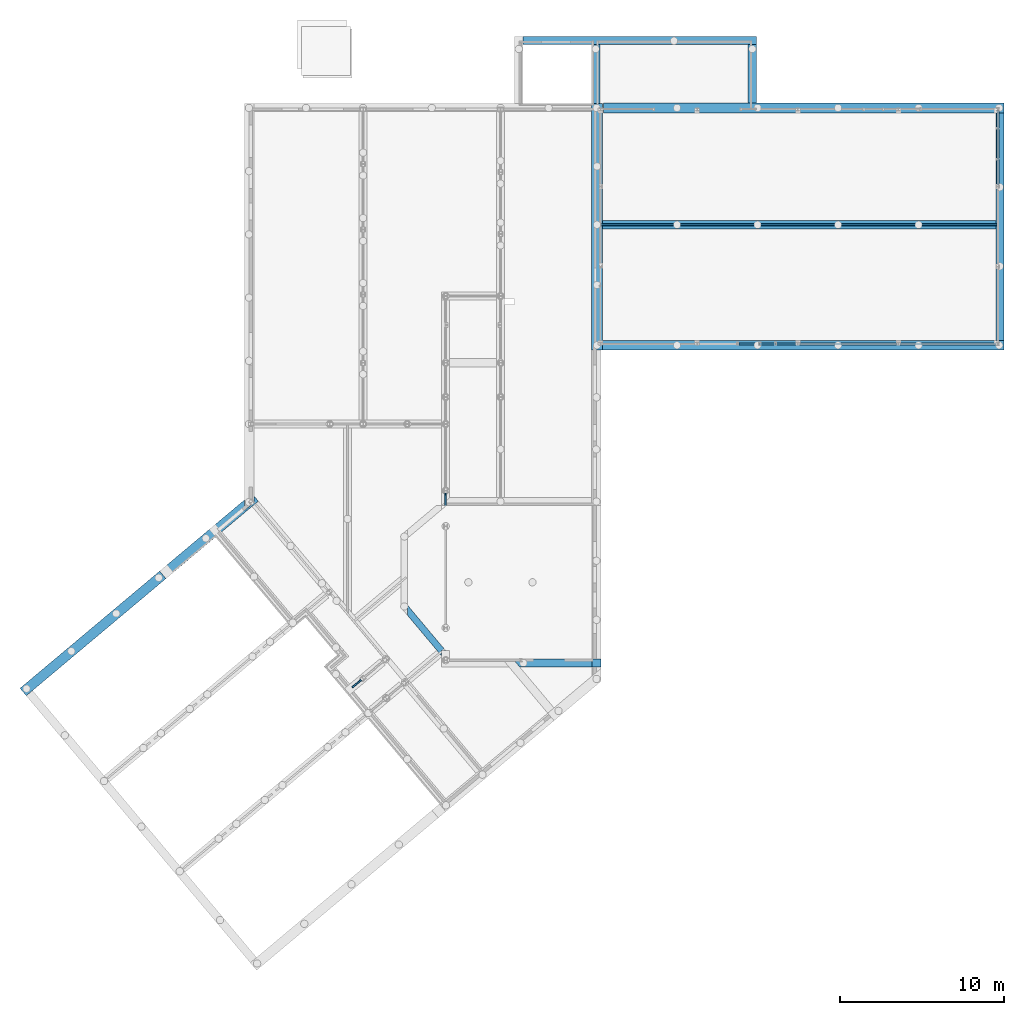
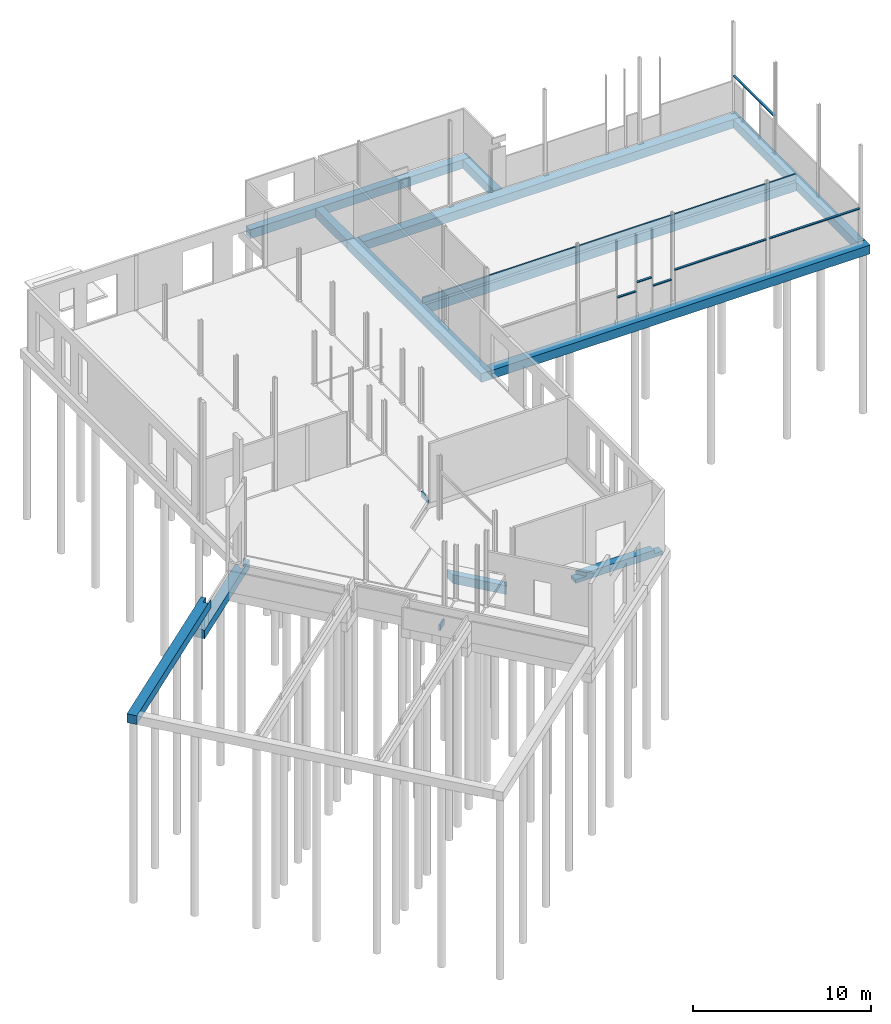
# One storey, part 13 of 18: 21 beams.
"""IFC2X3 building model written with IfcOpenShell, lengths in millimetres."""

from ifc_helpers import new_model, entity, si_unit, converted_unit, derived_unit, direction, frame, frame_2d, origin, place, context, subcontext, project, spatial, polyline, circle_curve, parameter, trimmed, segment, composite_curve, rectangle, outline, extrude, clip, halfspace, faceted_brep, material, type_object, element, save


model = new_model("IFC2X3")

# Units and contexts
model_context = context("Model", 3, precision=0.01, world=origin(), true_north=direction((6.12303176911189e-17, 1.0)))
body_context = subcontext(model_context, "Body", "Model", "MODEL_VIEW")
ifc_project = project(units=[si_unit("LENGTHUNIT", "METRE", prefix="MILLI"), si_unit("AREAUNIT", "SQUARE_METRE"), si_unit("VOLUMEUNIT", "CUBIC_METRE"), converted_unit("PLANEANGLEUNIT", "DEGREE", entity("IfcRatioMeasure", 0.0174532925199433), si_unit("PLANEANGLEUNIT", "RADIAN"), dimensions=[0, 0, 0, 0, 0, 0, 0]), si_unit("MASSUNIT", "GRAM", prefix="KILO"), derived_unit("MASSDENSITYUNIT", [(si_unit("MASSUNIT", "GRAM", prefix="KILO"), 1), (si_unit("LENGTHUNIT", "METRE"), -3)]), derived_unit("MOMENTOFINERTIAUNIT", [(si_unit("LENGTHUNIT", "METRE"), 4)]), si_unit("TIMEUNIT", "SECOND"), si_unit("FREQUENCYUNIT", "HERTZ"), si_unit("THERMODYNAMICTEMPERATUREUNIT", "DEGREE_CELSIUS"), derived_unit("THERMALTRANSMITTANCEUNIT", [(si_unit("MASSUNIT", "GRAM", prefix="KILO"), 1), (si_unit("THERMODYNAMICTEMPERATUREUNIT", "KELVIN"), -1), (si_unit("TIMEUNIT", "SECOND"), -3)]), derived_unit("VOLUMETRICFLOWRATEUNIT", [(si_unit("LENGTHUNIT", "METRE"), 3), (si_unit("TIMEUNIT", "SECOND"), -1)]), si_unit("ELECTRICCURRENTUNIT", "AMPERE"), si_unit("ELECTRICVOLTAGEUNIT", "VOLT"), si_unit("POWERUNIT", "WATT"), si_unit("FORCEUNIT", "NEWTON", prefix="KILO"), si_unit("ILLUMINANCEUNIT", "LUX"), si_unit("LUMINOUSFLUXUNIT", "LUMEN"), si_unit("LUMINOUSINTENSITYUNIT", "CANDELA"), derived_unit("USERDEFINED", [(si_unit("MASSUNIT", "GRAM", prefix="KILO"), -1), (si_unit("LENGTHUNIT", "METRE"), -2), (si_unit("TIMEUNIT", "SECOND"), 3), (si_unit("LUMINOUSFLUXUNIT", "LUMEN"), 1)]), derived_unit("LINEARVELOCITYUNIT", [(si_unit("LENGTHUNIT", "METRE"), 1), (si_unit("TIMEUNIT", "SECOND"), -1)]), si_unit("PRESSUREUNIT", "PASCAL"), derived_unit("USERDEFINED", [(si_unit("LENGTHUNIT", "METRE"), -2), (si_unit("MASSUNIT", "GRAM", prefix="KILO"), 1), (si_unit("TIMEUNIT", "SECOND"), -2)]), derived_unit("LINEARFORCEUNIT", [(si_unit("MASSUNIT", "GRAM", prefix="KILO"), 1), (si_unit("LENGTHUNIT", "METRE"), 1), (si_unit("TIMEUNIT", "SECOND"), -2), (si_unit("LENGTHUNIT", "METRE"), -1)]), derived_unit("PLANARFORCEUNIT", [(si_unit("MASSUNIT", "GRAM", prefix="KILO"), 1), (si_unit("LENGTHUNIT", "METRE"), 1), (si_unit("TIMEUNIT", "SECOND"), -2), (si_unit("LENGTHUNIT", "METRE"), -2)])], contexts=[model_context])

# Site, building, storey
site_placement = place(None, origin())
site = spatial("IfcSite", under=ifc_project, at=site_placement, Name="Default", CompositionType="ELEMENT")
building_placement = place(site_placement, origin())
building = spatial("IfcBuilding", under=site, at=building_placement, CompositionType="ELEMENT")
storey_placement = place(building_placement, frame((0.0, 0.0, -1085.0)))
storey = spatial("IfcBuildingStorey", under=building, at=storey_placement, Name="-00 fundatie", CompositionType="ELEMENT", Elevation=-1085.0)

# Beams
ifc_material_1 = material(Name="f2_beton ihwg")
beam_type_1 = type_object("IfcBeamType", Name="BERSnl_28_SF_LIB_balk vierkant beton_gen_ISR:balk vierkant_gen_600X600", PredefinedType="JOIST")
beam_1_placement = place(storey_placement, frame((35246.2969104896, 35496.2966282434, 600.0)))
element("IfcBeam", 1, at=beam_1_placement, inside=storey, type_object=beam_type_1, material=ifc_material_1, Name="BERSnl_28_SF_LIB_balk vierkant beton_gen_ISR:balk vierkant_gen_600X600", ObjectType="BERSnl_28_SF_LIB_balk vierkant beton_gen_ISR:balk vierkant_gen_600X600", context=body_context, shape_type="SweptSolid", body=[
    extrude(rectangle(XDim=600.000000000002, YDim=599.999999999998, at=frame_2d((0.0, 8.01207988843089e-11), x_axis=(1.0, 0.0))), frame((0.0, 0.0, -300.0), z_axis=(1.0, 0.0, 0.0), x_axis=(0.0, 0.0, -1.0)), (0.0, 0.0, 1.0), 24487.1301466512),
])
beam_2_placement = place(storey_placement, frame((59483.4270571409, 20996.2966282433, 600.0), z_axis=(0.0, 0.0, 1.0), x_axis=(-1.0, 0.0, 0.0)))
element("IfcBeam", 2, at=beam_2_placement, inside=storey, type_object=beam_type_1, material=ifc_material_1, Name="BERSnl_28_SF_LIB_balk vierkant beton_gen_ISR:balk vierkant_gen_600X600", ObjectType="BERSnl_28_SF_LIB_balk vierkant beton_gen_ISR:balk vierkant_gen_600X600", context=body_context, shape_type="SweptSolid", body=[
    extrude(rectangle(XDim=600.000000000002, YDim=599.999999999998, at=frame_2d((0.0, 7.79607489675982e-11), x_axis=(1.0, 0.0))), frame((-250.0, 0.0, -300.0), z_axis=(1.0, 0.0, 0.0), x_axis=(0.0, 0.0, -1.0)), (0.0, 0.0, 1.0), 24520.0000000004),
])
beam_3_placement = place(storey_placement, frame((-394.472974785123, -425.114752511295, 1450.0), z_axis=(0.0, 0.0, 1.0), x_axis=(0.766044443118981, 0.642787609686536, 0.0)))
element("IfcBeam", 3, at=beam_3_placement, inside=storey, type_object=beam_type_1, material=ifc_material_1, Name="BERSnl_28_SF_LIB_balk vierkant beton_gen_ISR:balk vierkant_gen_600X600", ObjectType="BERSnl_28_SF_LIB_balk vierkant beton_gen_ISR:balk vierkant_gen_600X600", context=body_context, shape_type="Brep", body=[
    faceted_brep([(12495.4423259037, 352.094453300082, 0.0), (12495.4423259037, 352.094453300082, 600.0), (12495.4423259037, 72.0944533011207, 600.0), (12495.4423259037, 72.0944533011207, 0.0), (295.442325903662, 352.094453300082, 600.0), (295.44232590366, -247.905546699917, 600.0), (795.442325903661, -247.905546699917, 600.0), (12495.4423259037, -247.905546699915, 600.0), (12495.4423259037, -241.905546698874, 600.0), (12035.4423920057, -241.905546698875, 600.0), (12035.4423920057, -141.905546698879, 600.0), (12035.4423920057, 72.0944533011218, 600.0), (12035.4423920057, 352.094453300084, 0.0), (11435.4423920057, 352.094453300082, 0.0), (295.442325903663, 352.094453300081, 0.0), (12035.4423920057, 72.0944533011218, 0.0), (12035.4423920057, -241.905546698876, 0.0), (12495.4423259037, -241.905546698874, 0.0), (12495.4423259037, -247.905546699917, 0.0), (12035.4423920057, -247.905546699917, 0.0), (11435.4423920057, -247.905546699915, 0.0), (795.442325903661, -247.905546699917, 0.0), (295.44232590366, -247.905546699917, 0.0)], [[[0, 1, 2, 3]], [[2, 1, 4, 5, 6, 7, 8, 9, 10, 11]], [[1, 0, 12, 13, 14, 4]], [[0, 3, 15, 16, 17, 18, 19, 20, 21, 22, 14, 13, 12]], [[18, 7, 6, 5, 22, 21, 20, 19]], [[11, 15, 3, 2]], [[15, 11, 10, 9, 16]], [[16, 9, 8, 17]], [[7, 18, 17, 8]], [[5, 4, 14, 22]]]),
])
beam_4_placement = place(storey_placement, frame((8139.2621721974, 6735.53926188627, 0.0), z_axis=(0.0, 0.0, 1.0), x_axis=(0.76604444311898, 0.642787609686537, 0.0)))
element("IfcBeam", 4, at=beam_4_placement, inside=storey, type_object=beam_type_1, material=ifc_material_1, Name="BERSnl_28_SF_LIB_balk vierkant beton_gen_ISR:balk vierkant_gen_600X600", ObjectType="BERSnl_28_SF_LIB_balk vierkant beton_gen_ISR:balk vierkant_gen_600X600", context=body_context, shape_type="Brep", body=[
    faceted_brep([(295.442325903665, -247.905546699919, 600.0), (295.442325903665, 352.09445330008, 600.0), (295.442325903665, 352.09445330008, 0.0), (295.442325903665, -247.905546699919, 0.0), (895.442325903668, -247.90554669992, 600.0), (7660.44232591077, -247.905546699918, 600.0), (7660.44232591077, 152.564346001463, 600.0), (7413.3527475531, -141.905546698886, 600.0), (7155.8228561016, -141.905546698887, 600.0), (7155.3717004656, -141.905546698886, 600.0), (6630.10837395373, -141.90554669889, 600.0), (7044.62359175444, 352.094453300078, 600.0), (895.442325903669, 352.09445330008, 600.0), (7044.62359175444, 352.09445330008, 0.0), (6630.10837395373, -141.905546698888, 0.0), (7413.3527475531, -141.905546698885, 0.0), (7660.44232591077, 152.564346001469, 0.0), (7660.44232591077, -247.905546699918, 0.0)], [[[0, 1, 2, 3]], [[1, 0, 4, 5, 6, 7, 8, 9, 10, 11, 12]], [[2, 1, 12, 11, 13]], [[3, 2, 13, 14, 15, 16, 17]], [[0, 3, 17, 5, 4]], [[10, 14, 13, 11]], [[15, 7, 6, 16]], [[5, 17, 16, 6]], [[14, 10, 9, 8, 7, 15]]]),
])
beam_type_2 = type_object("IfcBeamType", Name="BERSnl_28_SF_LIB_balk vierkant beton_gen_ISR:balk vierkant_gen_500X600", PredefinedType="JOIST")
beam_5_placement = place(storey_placement, frame((44353.4270571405, 39616.2966282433, 600.0), z_axis=(0.0, 0.0, 1.0), x_axis=(-1.0, 0.0, 0.0)))
element("IfcBeam", 5, at=beam_5_placement, inside=storey, type_object=beam_type_2, material=ifc_material_1, Name="BERSnl_28_SF_LIB_balk vierkant beton_gen_ISR:balk vierkant_gen_500X600", ObjectType="BERSnl_28_SF_LIB_balk vierkant beton_gen_ISR:balk vierkant_gen_500X600", context=body_context, shape_type="SweptSolid", body=[
    extrude(rectangle(XDim=600.000000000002, YDim=499.999999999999, at=frame_2d((0.0, 3.03259639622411e-11), x_axis=(1.0, 0.0))), frame((-250.0, 0.0, -300.0), z_axis=(1.0, 0.0, 0.0), x_axis=(0.0, 0.0, -1.0)), (0.0, 0.0, 1.0), 14267.9920806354),
])
beam_6_placement = place(storey_placement, frame((34783.4270571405, 35465.948874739, 600.0), z_axis=(0.0, 0.0, 1.0), x_axis=(0.0, 1.0, 0.0)))
element("IfcBeam", 6, at=beam_6_placement, inside=storey, type_object=beam_type_2, material=ifc_material_1, Name="BERSnl_28_SF_LIB_balk vierkant beton_gen_ISR:balk vierkant_gen_500X600", ObjectType="BERSnl_28_SF_LIB_balk vierkant beton_gen_ISR:balk vierkant_gen_500X600", context=body_context, shape_type="SweptSolid", body=[
    extrude(rectangle(XDim=600.000000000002, YDim=499.999999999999, at=frame_2d((-5.6843418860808e-14, 0.0), x_axis=(1.0, 0.0))), frame((300.0, 0.0, -300.0), z_axis=(1.0, 0.0, 0.0), x_axis=(0.0, 0.0, -1.0)), (0.0, 0.0, 1.0), 3600.34775350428),
])
beam_7_placement = place(storey_placement, frame((44353.4270571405, 35496.2966282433, 600.0), z_axis=(0.0, 0.0, 1.0), x_axis=(0.0, 1.0, 0.0)))
element("IfcBeam", 7, at=beam_7_placement, inside=storey, type_object=beam_type_2, material=ifc_material_1, Name="BERSnl_28_SF_LIB_balk vierkant beton_gen_ISR:balk vierkant_gen_500X600", ObjectType="BERSnl_28_SF_LIB_balk vierkant beton_gen_ISR:balk vierkant_gen_500X600", context=body_context, shape_type="SweptSolid", body=[
    extrude(rectangle(XDim=600.000000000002, YDim=499.999999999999, at=frame_2d((-1.70530256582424e-13, -4.33431068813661e-12), x_axis=(1.0, 0.0))), frame((300.0, 0.0, -300.0), z_axis=(1.0, 0.0, 0.0), x_axis=(0.0, 0.0, -1.0)), (0.0, 0.0, 1.0), 3569.99999999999),
])
beam_8_placement = place(storey_placement, frame((59483.4270571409, 20996.2966282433, 600.0), z_axis=(0.0, 0.0, 1.0), x_axis=(0.0, 1.0, 0.0)))
element("IfcBeam", 8, at=beam_8_placement, inside=storey, type_object=beam_type_2, material=ifc_material_1, Name="BERSnl_28_SF_LIB_balk vierkant beton_gen_ISR:balk vierkant_gen_500X600", ObjectType="BERSnl_28_SF_LIB_balk vierkant beton_gen_ISR:balk vierkant_gen_500X600", context=body_context, shape_type="SweptSolid", body=[
    extrude(rectangle(XDim=600.000000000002, YDim=499.999999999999, at=frame_2d((-1.4210854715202e-13, -4.33431068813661e-12), x_axis=(1.0, 0.0))), frame((300.0, 0.0, -300.0), z_axis=(1.0, 0.0, 0.0), x_axis=(0.0, 0.0, -1.0)), (0.0, 0.0, 1.0), 13900.0000000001),
])
beam_9_placement = place(storey_placement, frame((59483.4270571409, 28356.4404189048, 600.0), z_axis=(0.0, 0.0, 1.0), x_axis=(-1.0, 0.0, 0.0)))
element("IfcBeam", 9, at=beam_9_placement, inside=storey, type_object=beam_type_2, material=ifc_material_1, Name="BERSnl_28_SF_LIB_balk vierkant beton_gen_ISR:balk vierkant_gen_500X600", ObjectType="BERSnl_28_SF_LIB_balk vierkant beton_gen_ISR:balk vierkant_gen_500X600", context=body_context, shape_type="SweptSolid", body=[
    extrude(rectangle(XDim=600.000000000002, YDim=499.999999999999, at=frame_2d((-2.8421709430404e-14, 6.0637717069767e-11), x_axis=(1.0, 0.0))), frame((250.0, 0.0, -300.0), z_axis=(1.0, 0.0, 0.0), x_axis=(0.0, 0.0, -1.0)), (0.0, 0.0, 1.0), 24020.0000000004),
])
beam_type_3 = type_object("IfcBeamType", Name="BERSnl_28_SF_LIB_balk vierkant beton_gen_ISR:balk vierkant_gen_700X600", PredefinedType="JOIST")
beam_10_placement = place(storey_placement, frame((34863.4270571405, 21257.7656657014, 600.0), z_axis=(0.0, 0.0, 1.0), x_axis=(0.0, 1.0, 0.0)))
element("IfcBeam", 10, at=beam_10_placement, inside=storey, type_object=beam_type_3, material=ifc_material_1, Name="BERSnl_28_SF_LIB_balk vierkant beton_gen_ISR:balk vierkant_gen_700X600", ObjectType="BERSnl_28_SF_LIB_balk vierkant beton_gen_ISR:balk vierkant_gen_700X600", context=body_context, shape_type="SweptSolid", body=[
    extrude(rectangle(XDim=600.000000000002, YDim=700.000000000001, at=frame_2d((-2.8421709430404e-13, 4.32009983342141e-12), x_axis=(1.0, 0.0))), frame((-561.469037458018, 0.0, -300.0), z_axis=(1.0, 0.0, 0.0), x_axis=(0.0, 0.0, -1.0)), (0.0, 0.0, 1.0), 15069.6522464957),
])
beam_type_4 = type_object("IfcBeamType", Name="BERSnl_28_SF_LIB_balk vierkant beton_gen_ISR:balk vierkant_gen500x500", PredefinedType="JOIST")
beam_11_placement = place(storey_placement, frame((29453.3043919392, 1327.29662827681, -250.0)))
element("IfcBeam", 11, at=beam_11_placement, inside=storey, type_object=beam_type_4, material=ifc_material_1, Name="BERSnl_28_SF_LIB_balk vierkant beton_gen_ISR:balk vierkant_gen500x500", ObjectType="BERSnl_28_SF_LIB_balk vierkant beton_gen_ISR:balk vierkant_gen500x500", context=body_context, shape_type="Brep", body=[
    faceted_brep([(0.0, 500.0, 0.0), (0.0, 0.0, 0.0), (0.0, 0.0, 250.0), (0.0, 46.0776135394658, 250.0), (0.0, 500.0, 250.0), (5660.12266520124, 0.0, 0.0), (5660.12266520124, 500.0, 0.0), (5660.12266520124, 500.0, 250.0), (5660.12266520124, 0.0, 250.0), (271.817537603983, 500.0, 500.0), (691.367353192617, 0.0, 500.0), (5100.12266520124, 0.0, 500.0), (5100.12266520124, 350.0, 500.0), (5100.12266520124, 500.0, 500.0), (3434.12266520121, 500.0, 500.0), (1529.5044708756, 500.0, 500.0), (910.75158826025, 500.0, 500.0), (271.817537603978, 500.0, 250.0), (5100.12266520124, 500.0, 250.0), (5170.12266520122, 500.0, 250.0), (5130.1226652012, 0.0, 250.0), (5100.12266520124, 0.0, 250.0), (691.367353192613, 0.0, 250.0), (38.6637085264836, 0.0, 250.0)], [[[0, 1, 2, 3, 4]], [[5, 6, 7, 8]], [[9, 10, 11, 12, 13, 14, 15, 16]], [[6, 0, 4, 17, 9, 16, 15, 14, 13, 18, 19, 7]], [[1, 0, 6, 5]], [[1, 5, 8, 20, 21, 11, 10, 22, 23, 2]], [[17, 4, 3, 2, 23, 22]], [[17, 22, 10, 9]], [[21, 18, 13, 12, 11]], [[18, 21, 20, 8, 7, 19]]]),
])
beam_type_5 = type_object("IfcBeamType", Name="BERSnl_28_SF_LIB_balk vierkant beton_gen_ISR:balk vierkant_gen_400x600", PredefinedType="JOIST")
beam_12_placement = place(storey_placement, frame((23290.4349765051, 2011.46503498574, 0.0), z_axis=(0.0, 0.0, 1.0), x_axis=(-0.642787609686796, 0.766044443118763, 0.0)))
element("IfcBeam", 12, at=beam_12_placement, inside=storey, type_object=beam_type_5, material=ifc_material_1, Name="BERSnl_28_SF_LIB_balk vierkant beton_gen_ISR:balk vierkant_gen_400x600", ObjectType="BERSnl_28_SF_LIB_balk vierkant beton_gen_ISR:balk vierkant_gen_400x600", context=body_context, shape_type="Brep", body=[
    faceted_brep([(2371.04408767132, -1989.54221947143, 600.0), (1894.34265063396, -1589.54221947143, 600.0), (-884.068585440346, -1589.54221947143, 600.0), (-1333.7842901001, -1589.54221947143, 600.0), (-1076.52236423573, -1805.41060658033, 600.0), (-1231.02713270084, -1989.54221947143, 600.0), (-1083.68805524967, -1989.54221947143, 600.0), (1894.34265063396, -1589.54221947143, 0.0), (-884.068585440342, -1589.54221947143, 0.0), (-1333.7842901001, -1589.54221947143, 0.0), (2371.04408767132, -1989.54221947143, 0.0), (-1012.65523574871, -1989.54221947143, 0.0), (-1140.80112520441, -1882.0150508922, 0.0), (-1076.52236423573, -1805.41060658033, 0.0), (-1231.02713270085, -1989.54221947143, 250.0), (-1012.65523574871, -1989.54221947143, 250.0), (-1140.80112520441, -1882.0150508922, 250.0)], [[[0, 1, 2, 3, 4, 5, 6]], [[1, 7, 8, 9, 3, 2]], [[7, 10, 11, 12, 13, 9, 8]], [[10, 0, 6, 5, 14, 15, 11]], [[1, 0, 10, 7]], [[4, 13, 12, 16, 14, 5]], [[13, 4, 3, 9]], [[16, 15, 14]], [[15, 16, 12, 11]]]),
])
ifc_material_2 = material(Name="00_Staal_generiek")
beam_type_6 = type_object("IfcBeamType", Name="BERSnl_28_SF_LIB_balk unp_gen_ISR:balk_gen_UNP140", PredefinedType="BEAM")
beam_13_placement = place(storey_placement, frame((59293.4270571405, 34424.7966282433, 3482.49999999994), z_axis=(0.0, 0.0, 1.0), x_axis=(0.0, -1.0, 0.0)))
element("IfcBeam", 13, at=beam_13_placement, inside=storey, type_object=beam_type_6, material=ifc_material_2, Name="BERSnl_28_SF_LIB_balk unp_gen_ISR:balk_gen_UNP140", ObjectType="BERSnl_28_SF_LIB_balk unp_gen_ISR:balk_gen_UNP140", context=body_context, shape_type="SweptSolid", body=[
    extrude(outline(composite_curve([segment(polyline([(-33.100124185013, -70.0), (26.8998758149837, -70.0)]), True, "CONTINUOUS"), segment(polyline([(26.8998758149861, -70.0), (26.8998758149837, -66.7383127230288)]), True, "CONTINUOUS"), segment(trimmed(circle_curve(frame_2d((21.8998758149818, -66.7383127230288), x_axis=(1.0, 0.0)), 5.00000000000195), [parameter(0.0)], [parameter(85.4199999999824)], True, "PARAMETER"), True, "CONTINUOUS"), segment(polyline([(22.2991307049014, -61.7542786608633), (-16.8986339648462, -58.6142721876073)]), True, "CONTINUOUS"), segment(trimmed(circle_curve(frame_2d((-16.1001241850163, -48.6462040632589), x_axis=(-0.0798509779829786, -0.996806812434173)), 9.99999999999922), [parameter(274.579999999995)], [parameter(0.0)], True, "PARAMETER"), False, "CONTINUOUS"), segment(polyline([(-26.1001241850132, -48.6462040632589), (-26.1001241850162, 48.6462040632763)]), True, "CONTINUOUS"), segment(trimmed(circle_curve(frame_2d((-16.1001241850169, 48.6462040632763), x_axis=(-1.0, 0.0)), 9.99999999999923), [parameter(274.579999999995)], [parameter(0.0)], True, "PARAMETER"), False, "CONTINUOUS"), segment(polyline([(-16.8986339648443, 58.614272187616), (22.2991307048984, 61.7542786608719)]), True, "CONTINUOUS"), segment(trimmed(circle_curve(frame_2d((21.8998758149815, 66.7383127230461), x_axis=(0.0798509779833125, -0.996806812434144)), 5.00000000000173), [parameter(0.0)], [parameter(85.4199999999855)], True, "PARAMETER"), True, "CONTINUOUS"), segment(polyline([(26.8998758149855, 66.7383127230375), (26.8998758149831, 70.0)]), True, "CONTINUOUS"), segment(polyline([(26.8998758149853, 70.0), (-33.1001241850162, 70.0)]), True, "CONTINUOUS"), segment(polyline([(-33.1001241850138, 70.0), (-33.1001241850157, -70.0)]), True, "CONTINUOUS")], self_intersect=False)), frame((-900.499999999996, 70.0, -15.600124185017), z_axis=(1.0, 0.0, 0.0), x_axis=(0.0, 0.0, -1.0)), (0.0, 0.0, 1.0), 4539.00000000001),
])
beam_14_placement = place(storey_placement, frame((45005.8374303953, 21136.2966282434, 2474.50000000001), z_axis=(0.0, 0.0, 1.0), x_axis=(-1.0, 0.0, 0.0)))
element("IfcBeam", 14, at=beam_14_placement, inside=storey, type_object=beam_type_6, material=ifc_material_2, Name="BERSnl_28_SF_LIB_balk unp_gen_ISR:balk_gen_UNP140", ObjectType="BERSnl_28_SF_LIB_balk unp_gen_ISR:balk_gen_UNP140", context=body_context, shape_type="SweptSolid", body=[
    extrude(outline(composite_curve([segment(polyline([(-33.1001241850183, -70.0), (26.8998758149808, -70.0)]), True, "CONTINUOUS"), segment(polyline([(26.8998758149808, -70.0), (26.899875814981, -66.7383127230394)]), True, "CONTINUOUS"), segment(trimmed(circle_curve(frame_2d((21.8998758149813, -66.7383127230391), x_axis=(1.0, 0.0)), 4.99999999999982), [parameter(0.0)], [parameter(85.4200000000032)], True, "PARAMETER"), True, "CONTINUOUS"), segment(polyline([(22.2991307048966, -61.7542786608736), (-16.8986339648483, -58.6142721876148)]), True, "CONTINUOUS"), segment(trimmed(circle_curve(frame_2d((-16.1001241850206, -48.6462040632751), x_axis=(-0.0798509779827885, -0.996806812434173)), 9.99999999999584), [parameter(274.579999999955)], [parameter(0.0)], True, "PARAMETER"), False, "CONTINUOUS"), segment(polyline([(-26.100124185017, -48.6462040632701), (-26.1001241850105, 48.6462040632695)]), True, "CONTINUOUS"), segment(trimmed(circle_curve(frame_2d((-16.1001241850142, 48.6462040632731), x_axis=(-1.0, 0.0)), 9.99999999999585), [parameter(274.579999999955)], [parameter(0.0)], True, "PARAMETER"), False, "CONTINUOUS"), segment(polyline([(-16.8986339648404, 58.6142721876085), (22.299130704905, 61.754278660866)]), True, "CONTINUOUS"), segment(trimmed(circle_curve(frame_2d((21.8998758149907, 66.7383127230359), x_axis=(0.0798509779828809, -0.996806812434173)), 4.9999999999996), [parameter(0.0)], [parameter(85.4200000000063)], True, "PARAMETER"), True, "CONTINUOUS"), segment(polyline([(26.8998758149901, 66.7383127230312), (26.8998758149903, 70.0)]), True, "CONTINUOUS"), segment(polyline([(26.8998758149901, 70.0), (-33.100124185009, 70.0)]), True, "CONTINUOUS"), segment(polyline([(-33.100124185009, 70.0), (-33.1001241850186, -70.0)]), True, "CONTINUOUS")], self_intersect=False)), frame((262.410373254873, 70.0, -15.6001241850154), z_axis=(1.0, 0.0, 0.0), x_axis=(0.0, 0.0, -1.0)), (0.0, 0.0, 1.0), 1210.0),
])
beam_15_placement = place(storey_placement, frame((47921.5254640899, 21136.2966282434, 3074.49999999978), z_axis=(0.0, 0.0, 1.0), x_axis=(-1.0, 0.0, 0.0)))
element("IfcBeam", 15, at=beam_15_placement, inside=storey, type_object=beam_type_6, material=ifc_material_2, Name="BERSnl_28_SF_LIB_balk unp_gen_ISR:balk_gen_UNP140", ObjectType="BERSnl_28_SF_LIB_balk unp_gen_ISR:balk_gen_UNP140", context=body_context, shape_type="SweptSolid", body=[
    extrude(outline(composite_curve([segment(polyline([(-33.1001241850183, -70.0), (26.8998758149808, -70.0)]), True, "CONTINUOUS"), segment(polyline([(26.8998758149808, -70.0), (26.899875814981, -66.7383127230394)]), True, "CONTINUOUS"), segment(trimmed(circle_curve(frame_2d((21.8998758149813, -66.7383127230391), x_axis=(1.0, 0.0)), 4.99999999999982), [parameter(0.0)], [parameter(85.4200000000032)], True, "PARAMETER"), True, "CONTINUOUS"), segment(polyline([(22.2991307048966, -61.7542786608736), (-16.8986339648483, -58.6142721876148)]), True, "CONTINUOUS"), segment(trimmed(circle_curve(frame_2d((-16.1001241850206, -48.6462040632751), x_axis=(-0.0798509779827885, -0.996806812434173)), 9.99999999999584), [parameter(274.579999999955)], [parameter(0.0)], True, "PARAMETER"), False, "CONTINUOUS"), segment(polyline([(-26.100124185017, -48.64620406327), (-26.1001241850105, 48.6462040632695)]), True, "CONTINUOUS"), segment(trimmed(circle_curve(frame_2d((-16.1001241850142, 48.6462040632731), x_axis=(-1.0, 0.0)), 9.99999999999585), [parameter(274.579999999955)], [parameter(0.0)], True, "PARAMETER"), False, "CONTINUOUS"), segment(polyline([(-16.8986339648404, 58.6142721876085), (22.299130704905, 61.754278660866)]), True, "CONTINUOUS"), segment(trimmed(circle_curve(frame_2d((21.8998758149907, 66.7383127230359), x_axis=(0.0798509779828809, -0.996806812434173)), 4.9999999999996), [parameter(0.0)], [parameter(85.4200000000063)], True, "PARAMETER"), True, "CONTINUOUS"), segment(polyline([(26.8998758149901, 66.7383127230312), (26.8998758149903, 70.0)]), True, "CONTINUOUS"), segment(polyline([(26.8998758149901, 70.0), (-33.100124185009, 70.0)]), True, "CONTINUOUS"), segment(polyline([(-33.100124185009, 70.0), (-33.1001241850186, -70.0)]), True, "CONTINUOUS")], self_intersect=False)), frame((2148.09840694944, 70.0, -15.6001241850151), z_axis=(1.0, 0.0, 0.0), x_axis=(0.0, 0.0, -1.0)), (0.0, 0.0, 1.0), 970.000000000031),
])
beam_16_placement = place(storey_placement, frame((49021.5254640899, 21136.2966282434, 2474.50000000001), z_axis=(0.0, 0.0, 1.0), x_axis=(-1.0, 0.0, 0.0)))
element("IfcBeam", 16, at=beam_16_placement, inside=storey, type_object=beam_type_6, material=ifc_material_2, Name="BERSnl_28_SF_LIB_balk unp_gen_ISR:balk_gen_UNP140", ObjectType="BERSnl_28_SF_LIB_balk unp_gen_ISR:balk_gen_UNP140", context=body_context, shape_type="SweptSolid", body=[
    extrude(outline(composite_curve([segment(polyline([(-33.1001241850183, -70.0), (26.8998758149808, -70.0)]), True, "CONTINUOUS"), segment(polyline([(26.8998758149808, -70.0), (26.899875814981, -66.7383127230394)]), True, "CONTINUOUS"), segment(trimmed(circle_curve(frame_2d((21.8998758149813, -66.7383127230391), x_axis=(1.0, 0.0)), 4.99999999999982), [parameter(0.0)], [parameter(85.4200000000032)], True, "PARAMETER"), True, "CONTINUOUS"), segment(polyline([(22.2991307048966, -61.7542786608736), (-16.8986339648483, -58.6142721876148)]), True, "CONTINUOUS"), segment(trimmed(circle_curve(frame_2d((-16.1001241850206, -48.6462040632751), x_axis=(-0.0798509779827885, -0.996806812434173)), 9.99999999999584), [parameter(274.579999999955)], [parameter(0.0)], True, "PARAMETER"), False, "CONTINUOUS"), segment(polyline([(-26.100124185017, -48.64620406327), (-26.1001241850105, 48.6462040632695)]), True, "CONTINUOUS"), segment(trimmed(circle_curve(frame_2d((-16.1001241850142, 48.6462040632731), x_axis=(-1.0, 0.0)), 9.99999999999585), [parameter(274.579999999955)], [parameter(0.0)], True, "PARAMETER"), False, "CONTINUOUS"), segment(polyline([(-16.8986339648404, 58.6142721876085), (22.299130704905, 61.754278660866)]), True, "CONTINUOUS"), segment(trimmed(circle_curve(frame_2d((21.8998758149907, 66.7383127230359), x_axis=(0.0798509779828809, -0.996806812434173)), 4.9999999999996), [parameter(0.0)], [parameter(85.4200000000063)], True, "PARAMETER"), True, "CONTINUOUS"), segment(polyline([(26.8998758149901, 66.7383127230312), (26.8998758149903, 70.0)]), True, "CONTINUOUS"), segment(polyline([(26.8998758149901, 70.0), (-33.100124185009, 70.0)]), True, "CONTINUOUS"), segment(polyline([(-33.100124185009, 70.0), (-33.1001241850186, -70.0)]), True, "CONTINUOUS")], self_intersect=False)), frame((1978.09840694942, 70.0, -15.6001241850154), z_axis=(1.0, 0.0, 0.0), x_axis=(0.0, 0.0, -1.0)), (0.0, 0.0, 1.0), 1210.00000000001),
])
beam_17_placement = place(storey_placement, frame((45245.3286501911, 21136.2966282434, 3074.49999999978)))
element("IfcBeam", 17, at=beam_17_placement, inside=storey, type_object=beam_type_6, material=ifc_material_2, Name="BERSnl_28_SF_LIB_balk unp_gen_ISR:balk_gen_UNP140", ObjectType="BERSnl_28_SF_LIB_balk unp_gen_ISR:balk_gen_UNP140", context=body_context, shape_type="SweptSolid", body=[
    extrude(outline(composite_curve([segment(polyline([(-33.100124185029, -70.0), (26.8998758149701, -70.0)]), True, "CONTINUOUS"), segment(polyline([(26.8998758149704, -70.0), (26.8998758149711, -66.7383127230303)]), True, "CONTINUOUS"), segment(trimmed(circle_curve(frame_2d((21.8998758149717, -66.7383127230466), x_axis=(1.0, 0.0)), 4.9999999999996), [parameter(0.0)], [parameter(85.4200000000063)], True, "PARAMETER"), True, "CONTINUOUS"), segment(polyline([(22.2991307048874, -61.7542786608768), (-16.898633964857, -58.614272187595)]), True, "CONTINUOUS"), segment(trimmed(circle_curve(frame_2d((-16.1001241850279, -48.6462040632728), x_axis=(-0.0798509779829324, -0.996806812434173)), 9.99999999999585), [parameter(274.579999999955)], [parameter(0.0)], True, "PARAMETER"), False, "CONTINUOUS"), segment(polyline([(-26.1001241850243, -48.6462040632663), (-26.1001241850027, 48.6462040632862)]), True, "CONTINUOUS"), segment(trimmed(circle_curve(frame_2d((-16.1001241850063, 48.6462040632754), x_axis=(-1.0, 0.0)), 9.99999999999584), [parameter(274.579999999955)], [parameter(0.0)], True, "PARAMETER"), False, "CONTINUOUS"), segment(polyline([(-16.8986339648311, 58.6142721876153), (22.2991307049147, 61.7542786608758)]), True, "CONTINUOUS"), segment(trimmed(circle_curve(frame_2d((21.8998758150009, 66.7383127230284), x_axis=(0.0798509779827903, -0.996806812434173)), 4.99999999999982), [parameter(0.0)], [parameter(85.4200000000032)], True, "PARAMETER"), True, "CONTINUOUS"), segment(polyline([(26.8998758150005, 66.7383127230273), (26.8998758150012, 70.0)]), True, "CONTINUOUS"), segment(polyline([(26.8998758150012, 70.0), (-33.1001241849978, 70.0)]), True, "CONTINUOUS"), segment(polyline([(-33.1001241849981, 70.0), (-33.100124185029, -70.0)]), True, "CONTINUOUS")], self_intersect=False)), frame((1978.09840694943, -70.0, -15.6001241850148), z_axis=(1.0, 0.0, 0.0), x_axis=(0.0, 0.0, -1.0)), (0.0, 0.0, 1.0), 5969.99999999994),
])
beam_18_placement = place(storey_placement, frame((61321.5254640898, 21136.2966282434, 3074.49999999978), z_axis=(0.0, 0.0, 1.0), x_axis=(-1.0, 0.0, 0.0)))
element("IfcBeam", 18, at=beam_18_placement, inside=storey, type_object=beam_type_6, material=ifc_material_2, Name="BERSnl_28_SF_LIB_balk unp_gen_ISR:balk_gen_UNP140", ObjectType="BERSnl_28_SF_LIB_balk unp_gen_ISR:balk_gen_UNP140", context=body_context, shape_type="SweptSolid", body=[
    extrude(outline(composite_curve([segment(polyline([(-33.1001241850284, -70.0), (26.8998758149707, -70.0)]), True, "CONTINUOUS"), segment(polyline([(26.8998758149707, -70.0), (26.8998758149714, -66.738312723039)]), True, "CONTINUOUS"), segment(trimmed(circle_curve(frame_2d((21.8998758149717, -66.7383127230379), x_axis=(1.0, 0.0)), 4.99999999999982), [parameter(0.0)], [parameter(85.4200000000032)], True, "PARAMETER"), True, "CONTINUOUS"), segment(polyline([(22.2991307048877, -61.7542786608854), (-16.8986339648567, -58.614272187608)]), True, "CONTINUOUS"), segment(trimmed(circle_curve(frame_2d((-16.1001241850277, -48.6462040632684), x_axis=(-0.0798509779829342, -0.996806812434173)), 9.99999999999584), [parameter(274.579999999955)], [parameter(0.0)], True, "PARAMETER"), False, "CONTINUOUS"), segment(polyline([(-26.100124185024, -48.6462040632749), (-26.1001241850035, 48.6462040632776)]), True, "CONTINUOUS"), segment(trimmed(circle_curve(frame_2d((-16.1001241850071, 48.6462040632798), x_axis=(-1.0, 0.0)), 9.99999999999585), [parameter(274.579999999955)], [parameter(0.0)], True, "PARAMETER"), False, "CONTINUOUS"), segment(polyline([(-16.8986339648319, 58.6142721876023), (22.2991307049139, 61.7542786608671)]), True, "CONTINUOUS"), segment(trimmed(circle_curve(frame_2d((21.8998758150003, 66.7383127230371), x_axis=(0.0798509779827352, -0.996806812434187)), 4.9999999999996), [parameter(0.0)], [parameter(85.4200000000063)], True, "PARAMETER"), True, "CONTINUOUS"), segment(polyline([(26.8998758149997, 66.7383127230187), (26.8998758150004, 70.0)]), True, "CONTINUOUS"), segment(polyline([(26.8998758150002, 70.0), (-33.1001241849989, 70.0)]), True, "CONTINUOUS"), segment(polyline([(-33.1001241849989, 70.0), (-33.1001241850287, -70.0)]), True, "CONTINUOUS")], self_intersect=False)), frame((2068.09840694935, 70.0, -15.6001241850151), z_axis=(1.0, 0.0, 0.0), x_axis=(0.0, 0.0, -1.0)), (0.0, 0.0, 1.0), 5880.00000000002),
])
beam_type_7 = type_object("IfcBeamType", Name="BERSnl_28_SF_LIB_balk vierkant beton_gen_ISR:balk vierkant 100x395", PredefinedType="JOIST")
beam_19_placement = place(storey_placement, frame((35063.4270571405, 28356.2966282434, 995.0)))
element("IfcBeam", 19, at=beam_19_placement, inside=storey, type_object=beam_type_7, material=ifc_material_1, Name="BERSnl_28_SF_LIB_balk vierkant beton_gen_ISR:balk vierkant 100x395", ObjectType="BERSnl_28_SF_LIB_balk vierkant beton_gen_ISR:balk vierkant 100x395", context=body_context, shape_type="SweptSolid", body=[
    extrude(rectangle(XDim=395.000000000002, YDim=99.9999999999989, at=frame_2d((-1.4210854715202e-14, 8.01350097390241e-11), x_axis=(1.0, 0.0))), frame((50.0, 0.0, -197.500000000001), z_axis=(1.0, 0.0, 0.0), x_axis=(0.0, 0.0, -1.0)), (0.0, 0.0, 1.0), 24199.9999999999),
])
beam_20_placement = place(storey_placement, frame((25615.4349765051, 11964.0621216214, 995.0), z_axis=(0.0, -0.301136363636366, 0.953581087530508), x_axis=(0.0, -0.953581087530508, -0.301136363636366)))
element("IfcBeam", 20, at=beam_20_placement, inside=storey, type_object=beam_type_7, material=ifc_material_1, Name="BERSnl_28_SF_LIB_balk vierkant beton_gen_ISR:balk vierkant 100x395", ObjectType="BERSnl_28_SF_LIB_balk vierkant beton_gen_ISR:balk vierkant 100x395", context=body_context, shape_type="SweptSolid", body=[
    clip(clip(clip(extrude(rectangle(XDim=376.664529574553, YDim=99.9999999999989, at=frame_2d((2.16715534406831e-12, 8.5265128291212e-14), x_axis=(0.0, 1.0))), frame((0.0, 0.0, -188.332264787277), z_axis=(1.0, 0.0, 0.0), x_axis=(0.0, 1.0, 0.0)), (0.0, 0.0, 1.0), 832.914872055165), halfspace(frame((48.7771200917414, 250.0, -398.824431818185), z_axis=(0.301136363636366, 0.0, -0.953581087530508), x_axis=(-0.953581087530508, 0.0, -0.301136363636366)), False)), halfspace(frame((832.914872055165, 250.0, -151.197466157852), z_axis=(0.953581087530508, 0.0, 0.301136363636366), x_axis=(-0.301136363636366, 0.0, 0.953581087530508)), False)), halfspace(frame((0.0, 0.0, 0.0), z_axis=(-0.953581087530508, 0.0, -0.301136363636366), x_axis=(-0.301136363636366, 0.0, 0.953581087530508)), False)),
])
beam_21_placement = place(storey_placement, frame((19909.9407503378, 93.5401264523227, 995.0), z_axis=(0.0, 0.0, 1.0), x_axis=(0.766044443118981, 0.642787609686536, 0.0)))
element("IfcBeam", 21, at=beam_21_placement, inside=storey, type_object=beam_type_7, material=ifc_material_1, Name="BERSnl_28_SF_LIB_balk vierkant beton_gen_ISR:balk vierkant 100x395", ObjectType="BERSnl_28_SF_LIB_balk vierkant beton_gen_ISR:balk vierkant 100x395", context=body_context, shape_type="SweptSolid", body=[
    extrude(outline(polyline([(-220.0, -33.3967550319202), (45.0, -33.3967550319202), (45.0, -33.2064899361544), (175.0, -33.2064899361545), (175.0, 66.6032449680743), (-220.0, 66.6032449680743), (-220.0, -33.3967550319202)])), frame((0.0, -16.6032449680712, -220.0), z_axis=(1.0, 0.0, 0.0), x_axis=(0.0, 0.0, -1.0)), (0.0, 0.0, 1.0), 693.544952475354),
])

save(model, "model.ifc")
